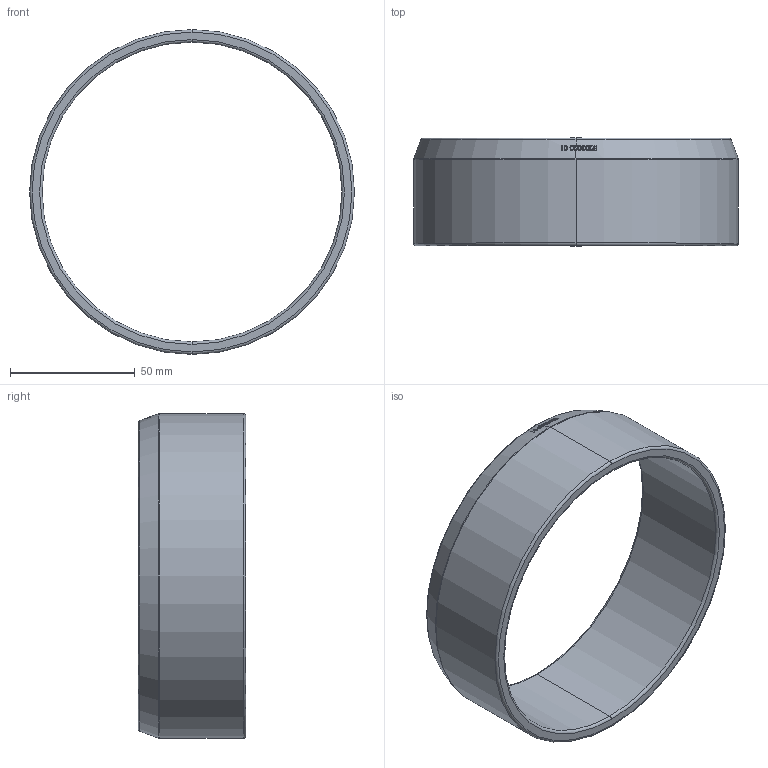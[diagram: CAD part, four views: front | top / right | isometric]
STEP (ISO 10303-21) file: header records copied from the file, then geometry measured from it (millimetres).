
FILE_DESCRIPTION (( 'STEP AP214' ), '1' );
FILE_NAME ('B203020-01 - Øåéêà ñàëüíèêà ðåìîíòíàÿ ÀÄÂ 218.step', '2026-06-08T14:06:59', ( '' ), ( '' ), 'SwSTEP 2.0', 'SolidWorks 2023', '' );
FILE_SCHEMA (( 'AUTOMOTIVE_DESIGN' ));
Length unit declared in the file: millimetre
Products named in the file (1): B203020-01 - Шейка сальника ремонтная АДВ 218
Bounding box: 130 x 43 x 130 mm (x, y, z)
Volume: 78959.3 mm3; surface area: 36060.6 mm2
Topology: 1 solids, 1 shells, 141 faces, 360 edges, 236 vertices
Faces by surface type: bspline 105, cone 20, torus 10, cylinder 4, plane 2
Entity records: 14332 total; most frequent: CARTESIAN_POINT 11812, ORIENTED_EDGE 720, EDGE_CURVE 360, B_SPLINE_CURVE_WITH_KNOTS 321, VERTEX_POINT 236, EDGE_LOOP 158, DIRECTION 143, FACE_OUTER_BOUND 141
